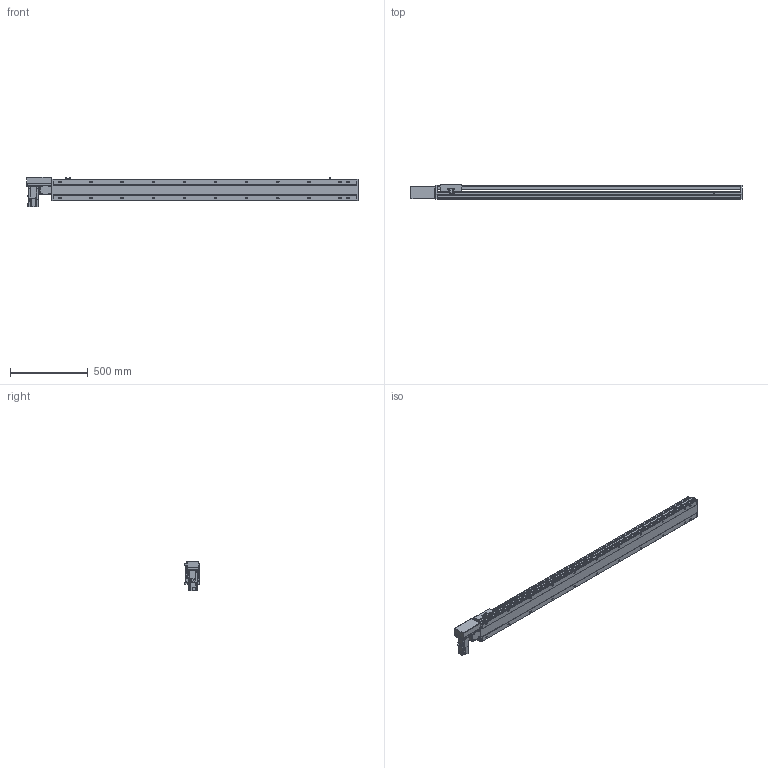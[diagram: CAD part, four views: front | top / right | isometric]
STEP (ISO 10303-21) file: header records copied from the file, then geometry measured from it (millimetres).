
FILE_DESCRIPTION(/* description */ ('STEP AP214'),/* implementation_level */ '2;1');
FILE_NAME(/* name */ 'PBS140S-P40-S1700-R-T40-C1-N(0)',/* time_stamp */ '2022-06-09T02:18:02+02:00',/* author */ ('License CC BY-ND 4.0'),/* organization */ ('CADENAS'),/* preprocessor_version */ 'ST-DEVELOPER v18.102',/* originating_system */ 'PARTsolutions',/* authorisation */ ' ');
FILE_SCHEMA (('AUTOMOTIVE_DESIGN {1 0 10303 214 3 1 1}'));
Length unit declared in the file: millimetre
Products named in the file (7): PBS140S-P40-S1700-R-T40-C1-N(0); PBS140S_sensor; PBS140S_plant; PBS140S_sliser; T40-p1; PBS140ST-R_motors; PBS140S-S1700()_body
Assembly tree (8 placements, depth 2):
  PBS140S-P40-S1700-R-T40-C1-N(0)
    PBS140S_sensor  x3
    PBS140S_plant
    PBS140S_sliser
    T40-p1
    PBS140ST-R_motors
    PBS140S-S1700()_body
Bounding box: 2133 x 93 x 189.7 mm (x, y, z)
Volume: 10225450.2 mm3; surface area: 1741370.8 mm2
Topology: 8 solids, 8 shells, 1147 faces, 3031 edges, 1983 vertices
Faces by surface type: plane 720, cylinder 369, cone 48, sphere 8, torus 2
Full cylindrical faces by diameter (mm): 3.242 x4, 4 x2, 4.134 x4, 4.4 x8, 4.5 x2, 4.8 x4, 4.917 x30, 5.5 x7, 6 x2, 7 x24, 7.5 x8, 8 x12, 8.5 x4, 10.5 x22, 14 x1, 30 x2, 50 x2
Entity records: 32870 total; most frequent: CARTESIAN_POINT 6152, DIRECTION 5558, ORIENTED_EDGE 5242, EDGE_CURVE 2621, AXIS2_PLACEMENT_3D 1949, VERTEX_POINT 1825, LINE 1660, VECTOR 1660
